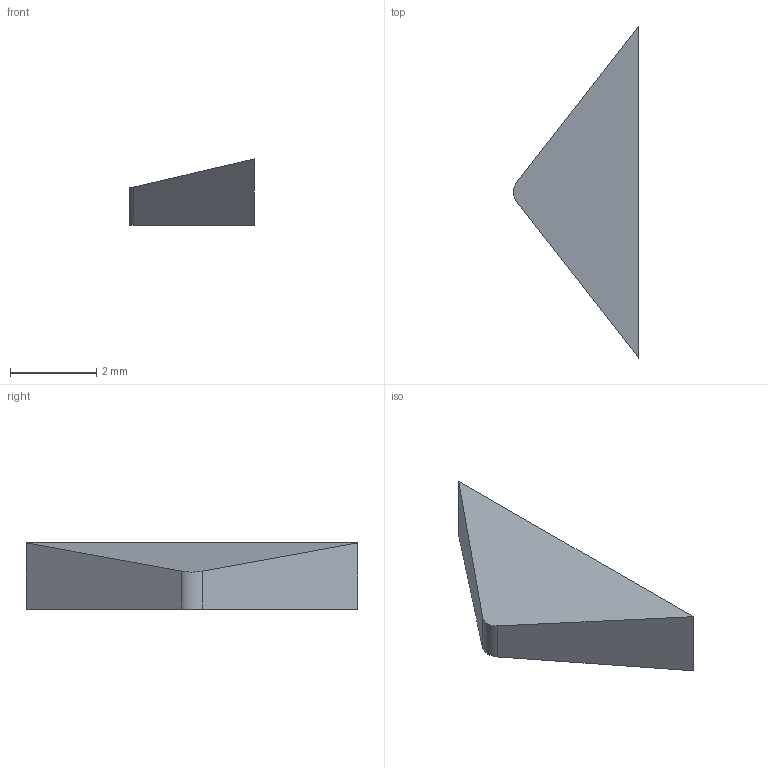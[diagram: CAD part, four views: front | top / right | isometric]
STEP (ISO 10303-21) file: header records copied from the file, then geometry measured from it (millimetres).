
FILE_DESCRIPTION(('Open CASCADE Model'),'2;1');
FILE_NAME('Open CASCADE Shape Model','2026-10-15T18:27:22',('Author'),( 'Open CASCADE'),'Open CASCADE STEP processor 7.9','Open CASCADE 7.9' ,'Unknown');
FILE_SCHEMA(('AUTOMOTIVE_DESIGN { 1 0 10303 214 1 1 1 1 }'));
Length unit declared in the file: millimetre
Products named in the file (1): Open CASCADE STEP translator 7.9 19
Bounding box: 2.89 x 7.68 x 1.53 mm (x, y, z)
Volume: 15 mm3; surface area: 46.5 mm2
Topology: 1 solids, 1 shells, 6 faces, 12 edges, 8 vertices
Faces by surface type: plane 5, cylinder 1
Entity records: 319 total; most frequent: CARTESIAN_POINT 75, DIRECTION 38, ORIENTED_EDGE 24, PCURVE 24, DEFINITIONAL_REPRESENTATION 24, LINE 19, VECTOR 19, B_SPLINE_CURVE_WITH_KNOTS 13
